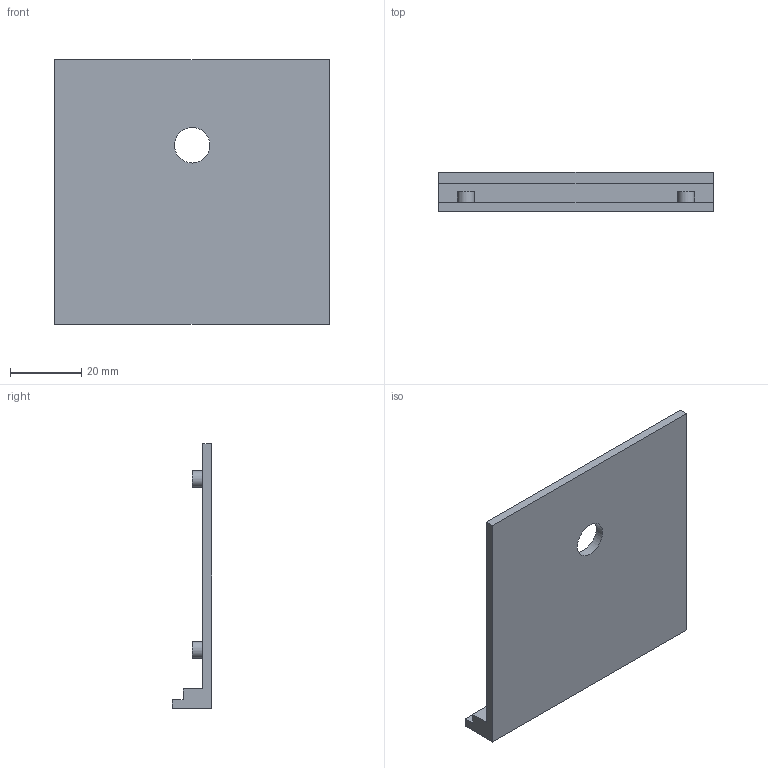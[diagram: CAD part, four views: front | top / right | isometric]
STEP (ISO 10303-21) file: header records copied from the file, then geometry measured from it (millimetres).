
FILE_DESCRIPTION(/* description */ (''),/* implementation_level */ '2;1');
FILE_NAME(/* name */ '/Users/davidflorian/Library/Mobile Documents/com~apple~CloudDocs/Vanderbilt/Papers/OTTO/Supplemental Material/3D-Printable-Components-STEP-Files/Pipette-Housing-Top-Plate.step',/* time_stamp */ '2020-06-30T22:45:35-05:00',/* author */ (''),/* organization */ (''),/* preprocessor_version */ 'ST-DEVELOPER v18.1',/* originating_system */ 'Autodesk Translation Framework v9.3.0.1241',/* authorisation */ '');
FILE_SCHEMA (('AUTOMOTIVE_DESIGN { 1 0 10303 214 3 1 1 }'));
Length unit declared in the file: millimetre
Products named in the file (1): Top-Plate
Bounding box: 77.15 x 11 x 74.5 mm (x, y, z)
Volume: 17293.4 mm3; surface area: 13739.3 mm2
Topology: 1 solids, 1 shells, 19 faces, 39 edges, 26 vertices
Faces by surface type: plane 14, cylinder 5
Full cylindrical faces by diameter (mm): 4.7 x4, 10 x1
Entity records: 540 total; most frequent: DIRECTION 89, CARTESIAN_POINT 85, ORIENTED_EDGE 78, EDGE_CURVE 39, AXIS2_PLACEMENT_3D 30, LINE 29, VECTOR 29, VERTEX_POINT 26
